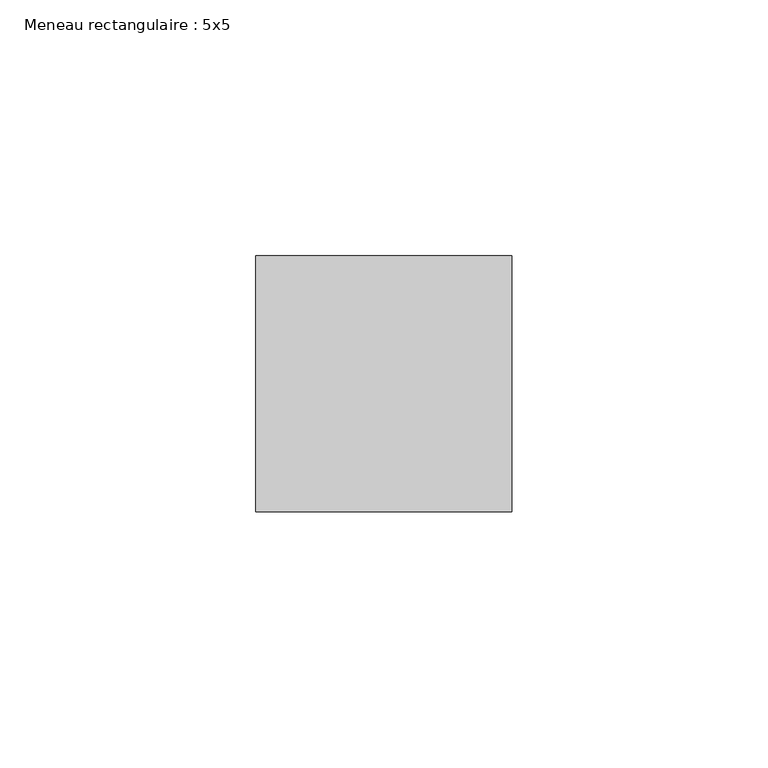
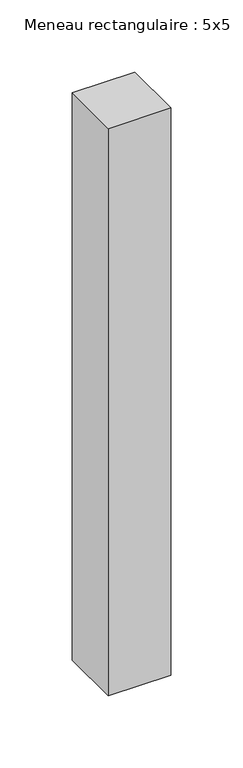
"""IFC4 building model written with IfcOpenShell, lengths in millimetres: member geometry, Meneau rectangulaire : 5x5."""

from ifc_helpers import new_model, si_unit, frame, origin, place, context, project, spatial, polyline, outline, extrude, source, transform, mapped, element, save


def meneau_rectangulaire_5x5_a81d64b9(model_context):
    return source(origin(), model_context, "Body", "SweptSolid", [
        extrude(outline(polyline([(0.0, 25.0), (0.0, -25.0), (-50.0, -25.0), (-50.0, 25.0), (0.0, 25.0)])), frame((0.0, 0.0, -480.0), z_axis=(0.0, 0.0, 1.0), x_axis=(1.0, 0.0, 0.0)), (0.0, 0.0, 1.0), 480.0),
    ])


if __name__ == "__main__":
    model = new_model("IFC4")
    model_context = context("Model", 3, world=origin())
    ifc_project = project(units=[si_unit("LENGTHUNIT", "METRE", prefix="MILLI")], contexts=[model_context])
    site = spatial("IfcSite", under=ifc_project)
    building = spatial("IfcBuilding", under=site)
    placement = place(None, origin())
    meneau_rectangulaire_5x5_shape = meneau_rectangulaire_5x5_a81d64b9(model_context)
    element("IfcMember", 1, ObjectType="Meneau rectangulaire : 5x5", at=placement, inside=building, context=model_context, shape_type="MappedRepresentation", body=[
        mapped(meneau_rectangulaire_5x5_shape, transform((0.0, 0.0, 0.0), x_axis=(1.0, 0.0, 0.0), y_axis=(0.0, 1.0, 0.0), z_axis=(0.0, 0.0, 1.0))),
    ])
    save(model, "model.ifc")
